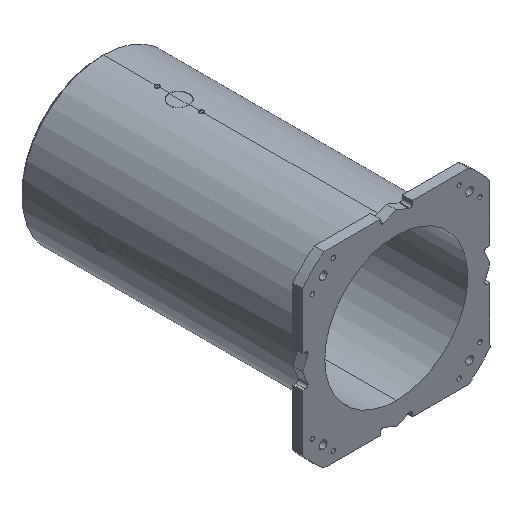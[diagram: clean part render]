
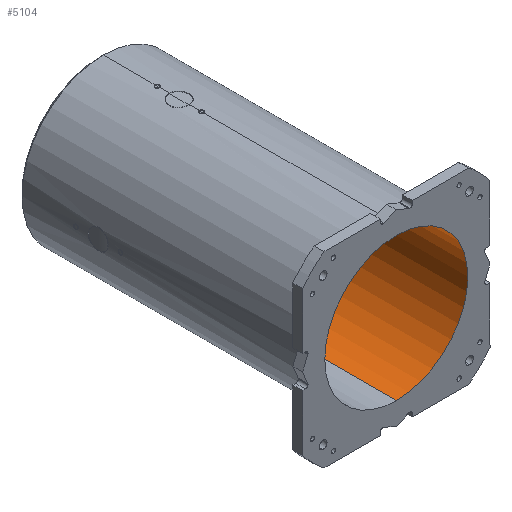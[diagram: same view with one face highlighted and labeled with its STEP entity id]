
A CAD part, isometric view. The second image highlights one B-rep face of the part: STEP entity #5104.
In plain terms, the highlighted cylindrical face has radius 145 mm (diameter 290 mm), a partial arc.
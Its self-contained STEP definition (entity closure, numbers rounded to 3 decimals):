
#508 = VERTEX_POINT ( 'NONE', #7748 ) ;
#671 = CARTESIAN_POINT ( 'NONE',  ( 0., 0., 0. ) ) ;
#735 = CARTESIAN_POINT ( 'NONE',  ( 0., 0., -145. ) ) ;
#821 = CARTESIAN_POINT ( 'NONE',  ( 0., 0., 0. ) ) ;
#859 = FACE_OUTER_BOUND ( 'NONE', #12417, .T. ) ;
#1084 = EDGE_CURVE ( 'NONE', #8816, #11208, #10241, .T. ) ;
#1309 = ORIENTED_EDGE ( 'NONE', *, *, #1084, .T. ) ;
#1422 = CARTESIAN_POINT ( 'NONE',  ( 0., 582., -145. ) ) ;
#2309 = CARTESIAN_POINT ( 'NONE',  ( 0., 582., 145. ) ) ;
#2532 = ORIENTED_EDGE ( 'NONE', *, *, #2671, .T. ) ;
#2671 = EDGE_CURVE ( 'NONE', #508, #8816, #8053, .T. ) ;
#3569 = VERTEX_POINT ( 'NONE', #11821 ) ;
#3614 = EDGE_CURVE ( 'NONE', #3569, #11208, #9502, .T. ) ;
#3825 = AXIS2_PLACEMENT_3D ( 'NONE', #671, #12375, #10472 ) ;
#4067 = VECTOR ( 'NONE', #12028, 1000. ) ;
#4202 = CARTESIAN_POINT ( 'NONE',  ( 0., 0., 145. ) ) ;
#4267 = EDGE_CURVE ( 'NONE', #508, #3569, #4620, .T. ) ;
#4620 = CIRCLE ( 'NONE', #8305, 145. ) ;
#4640 = DIRECTION ( 'NONE',  ( 0., 0., 1. ) ) ;
#5104 = ADVANCED_FACE ( 'NONE', ( #859 ), #11557, .F. ) ;
#5112 = ORIENTED_EDGE ( 'NONE', *, *, #4267, .F. ) ;
#6205 = ORIENTED_EDGE ( 'NONE', *, *, #3614, .F. ) ;
#7748 = CARTESIAN_POINT ( 'NONE',  ( 0., 0., 145. ) ) ;
#8053 = LINE ( 'NONE', #4202, #4067 ) ;
#8305 = AXIS2_PLACEMENT_3D ( 'NONE', #821, #10560, #9714 ) ;
#8346 = VECTOR ( 'NONE', #12512, 1000. ) ;
#8480 = DIRECTION ( 'NONE',  ( 0., 1., 0. ) ) ;
#8816 = VERTEX_POINT ( 'NONE', #2309 ) ;
#9502 = LINE ( 'NONE', #735, #8346 ) ;
#9714 = DIRECTION ( 'NONE',  ( 0., 0., 1. ) ) ;
#10241 = CIRCLE ( 'NONE', #10443, 145. ) ;
#10443 = AXIS2_PLACEMENT_3D ( 'NONE', #11580, #8480, #4640 ) ;
#10472 = DIRECTION ( 'NONE',  ( 0., 0., 1. ) ) ;
#10560 = DIRECTION ( 'NONE',  ( 0., 1., 0. ) ) ;
#11208 = VERTEX_POINT ( 'NONE', #1422 ) ;
#11557 = CYLINDRICAL_SURFACE ( 'NONE', #3825, 145. ) ;
#11580 = CARTESIAN_POINT ( 'NONE',  ( 0., 582., 0. ) ) ;
#11821 = CARTESIAN_POINT ( 'NONE',  ( 0., 0., -145. ) ) ;
#12028 = DIRECTION ( 'NONE',  ( 0., 1., 0. ) ) ;
#12375 = DIRECTION ( 'NONE',  ( 0., 1., 0. ) ) ;
#12417 = EDGE_LOOP ( 'NONE', ( #6205, #5112, #2532, #1309 ) ) ;
#12512 = DIRECTION ( 'NONE',  ( 0., 1., 0. ) ) ;
